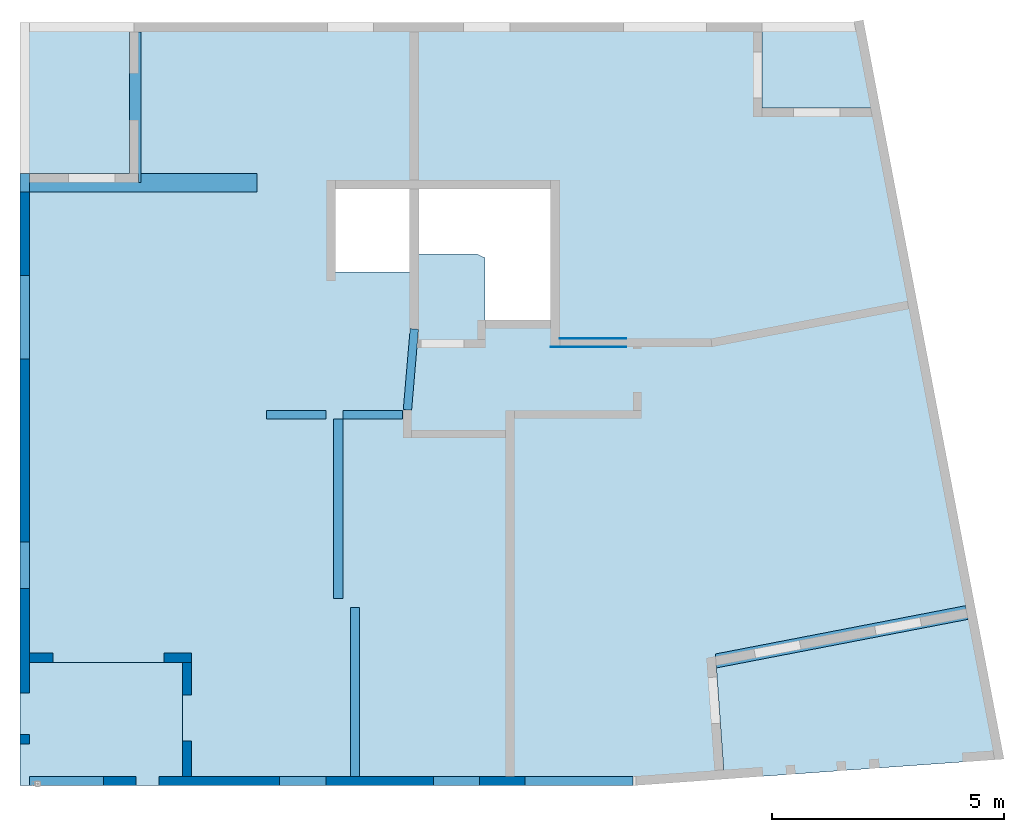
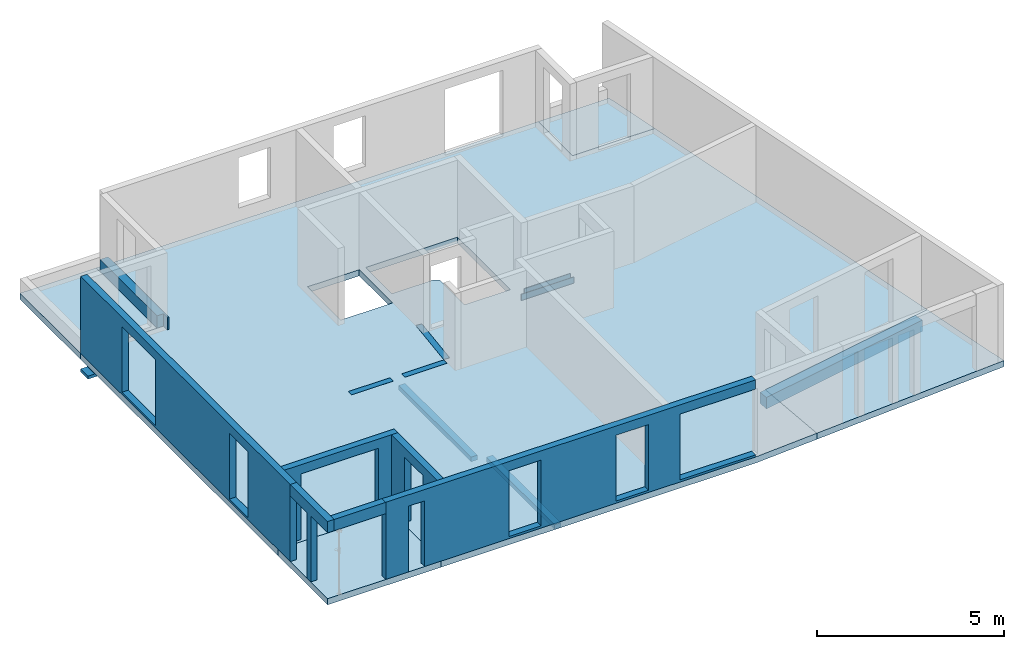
# One storey, part 1 of 3: 9 beams, 6 walls, 5 slabs, 17 openings.
"""IFC2X3 building model written with IfcOpenShell, lengths in centimetres."""

from ifc_helpers import new_model, entity, si_unit, converted_unit, derived_unit, direction, frame, frame_2d, origin, origin_2d_with_axis, place, context, subcontext, project, spatial, polyline, rectangle, outline, extrude, clip, halfspace, bounded_halfspace, face_set, faceted_brep, surface_model, source, transform, mapped, material, layer, layer_set, layer_usage, type_object, element, save


model = new_model("IFC2X3")

# Units and contexts
model_context = context("Model", 3, precision=0.001, world=origin(), true_north=direction((6.12303176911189e-17, 1.0)))
body_context = subcontext(model_context, "Body", "Model", "MODEL_VIEW")
ifc_project = project(units=[si_unit("LENGTHUNIT", "METRE", prefix="CENTI"), si_unit("AREAUNIT", "SQUARE_METRE"), si_unit("VOLUMEUNIT", "CUBIC_METRE"), converted_unit("PLANEANGLEUNIT", "DEGREE", entity("IfcRatioMeasure", 0.0174532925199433), si_unit("PLANEANGLEUNIT", "RADIAN"), dimensions=[0, 0, 0, 0, 0, 0, 0]), si_unit("MASSUNIT", "GRAM", prefix="KILO"), si_unit("TIMEUNIT", "SECOND"), si_unit("FREQUENCYUNIT", "HERTZ"), si_unit("THERMODYNAMICTEMPERATUREUNIT", "DEGREE_CELSIUS"), derived_unit("THERMALTRANSMITTANCEUNIT", [(si_unit("MASSUNIT", "GRAM", prefix="KILO"), 1), (si_unit("THERMODYNAMICTEMPERATUREUNIT", "KELVIN"), -1), (si_unit("TIMEUNIT", "SECOND"), -3)]), derived_unit("VOLUMETRICFLOWRATEUNIT", [(si_unit("LENGTHUNIT", "METRE"), 3), (si_unit("TIMEUNIT", "SECOND"), -1)]), si_unit("ELECTRICCURRENTUNIT", "AMPERE"), si_unit("ELECTRICVOLTAGEUNIT", "VOLT"), si_unit("POWERUNIT", "WATT"), si_unit("FORCEUNIT", "NEWTON"), si_unit("ILLUMINANCEUNIT", "LUX"), si_unit("LUMINOUSFLUXUNIT", "LUMEN"), si_unit("LUMINOUSINTENSITYUNIT", "CANDELA"), derived_unit("USERDEFINED", [(si_unit("MASSUNIT", "GRAM", prefix="KILO"), -1), (si_unit("LENGTHUNIT", "METRE"), -2), (si_unit("TIMEUNIT", "SECOND"), 3), (si_unit("LUMINOUSFLUXUNIT", "LUMEN"), 1)]), derived_unit("LINEARVELOCITYUNIT", [(si_unit("LENGTHUNIT", "METRE"), 1), (si_unit("TIMEUNIT", "SECOND"), -1)]), si_unit("PRESSUREUNIT", "PASCAL"), derived_unit("USERDEFINED", [(si_unit("LENGTHUNIT", "METRE"), -2), (si_unit("MASSUNIT", "GRAM", prefix="KILO"), 1), (si_unit("TIMEUNIT", "SECOND"), -2)])], contexts=[model_context])

# Site, building, storey
site_placement = place(None, origin())
site = spatial("IfcSite", under=ifc_project, at=site_placement, Name="Default", CompositionType="ELEMENT")
building_placement = place(site_placement, origin())
building = spatial("IfcBuilding", under=site, at=building_placement, CompositionType="ELEMENT")
storey_placement = place(building_placement, frame((0.0, 0.0, 272.0)))
storey = spatial("IfcBuildingStorey", under=building, at=storey_placement, Name="R+1", CompositionType="ELEMENT", Elevation=271.999999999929)

# Beams
ifc_material_1 = material(Name="Béton_C25/30")
shared_shape_1 = source(origin(), body_context, "Body", "SurfaceModel", [
    surface_model("IfcFaceBasedSurfaceModel", [(128.991004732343, 18.0, 20.0), (128.991004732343, 0.0, 20.0), (128.991004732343, 0.0, 0.0), (128.991004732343, 18.0, 0.0), (0.0, 18.0, 20.0), (0.0, 0.0, 20.0), (0.0, 0.0, 0.0), (0.0, 18.0, 0.0)], [face_set([[[0, 1, 2, 3]], [[4, 5, 6, 7]], [[1, 0, 4, 5]], [[2, 1, 5, 6]], [[3, 2, 6, 7]], [[0, 3, 7, 4]]])]),
])
beam_1_placement = place(storey_placement, frame((1573.3961455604, 23999.1933501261, -27.0)))
element("IfcBeam", 1, at=beam_1_placement, inside=storey, material=ifc_material_1, Name="BB_BANDE NOYEE:BB_BN_RECTANGULAIRE", ObjectType="BB_BN_RECTANGULAIRE", context=body_context, shape_type="MappedRepresentation", body=[
    mapped(shared_shape_1, transform((0.0, 0.0, 0.0), scale=1.0)),
])
shared_shape_2 = source(origin(), body_context, "Body", "Brep", [
    faceted_brep([(0.0, 0.0, 20.0), (0.0, 18.0, 20.0), (0.0, 18.0, 0.0), (0.0, 0.0, 0.0), (128.72999993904, 0.0, 20.0), (128.72999993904, 0.0, 0.0), (128.72999993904, 18.0, 0.0), (128.72999993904, 18.0, 20.0)], [[[0, 1, 2, 3]], [[4, 5, 6, 7]], [[1, 0, 4, 7]], [[2, 1, 7, 6]], [[3, 2, 6, 5]], [[0, 3, 5, 4]]]),
])
beam_2_placement = place(storey_placement, frame((1408.3961455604, 23999.1933501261, -27.0)))
element("IfcBeam", 2, at=beam_2_placement, inside=storey, material=ifc_material_1, Name="BB_BANDE NOYEE:BB_BN_RECTANGULAIRE", ObjectType="BB_BN_RECTANGULAIRE", context=body_context, shape_type="MappedRepresentation", body=[
    mapped(shared_shape_2, transform((0.0, 0.0, 0.0), scale=1.0)),
])
shared_shape_3 = source(origin(), body_context, "Body", "SurfaceModel", [
    surface_model("IfcFaceBasedSurfaceModel", [(18.1074808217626, 2.02519195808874, 20.0), (18.1074808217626, 2.02519195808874, 0.0), (0.172197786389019, 3.55019111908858, 0.0), (0.172197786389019, 3.55019111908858, 20.0), (32.9626776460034, 176.734900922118, 20.0), (32.9626776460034, 176.734900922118, 0.0), (15.0273946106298, 178.259900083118, 0.0), (15.0273946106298, 178.259900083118, 20.0)], [face_set([[[0, 1, 2, 3]], [[4, 5, 6, 7]], [[3, 0, 4, 7]], [[2, 3, 7, 6]], [[1, 2, 6, 5]], [[0, 1, 5, 4]]])]),
])
beam_3_placement = place(storey_placement, frame((1703.68950877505, 24015.5430677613, -27.0)))
element("IfcBeam", 3, at=beam_3_placement, inside=storey, material=ifc_material_1, Name="BB_BANDE NOYEE:BB_BN_RECTANGULAIRE", ObjectType="BB_BN_RECTANGULAIRE", context=body_context, shape_type="MappedRepresentation", body=[
    mapped(shared_shape_3, transform((0.0, 0.0, 0.0), scale=1.0)),
])
shared_shape_4 = source(origin(), body_context, "Body", "SweptSolid", [
    extrude(rectangle(XDim=1.00000000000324, YDim=143.000249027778, at=frame_2d((0.0, -2.1316282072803e-13), x_axis=(1.0, 0.0))), frame((2113.29273334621, 24172.805840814, 265.0), z_axis=(0.0, 0.0, 1.0), x_axis=(0.0, -1.0, 0.0)), (0.0, 0.0, 1.0), 20.0),
    extrude(rectangle(XDim=0.999999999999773, YDim=163.000249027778, at=frame_2d((-1.7325862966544e-12, -2.20268248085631e-13), x_axis=(1.0, 0.0))), frame((2103.29273334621, 24153.805840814, 265.0), z_axis=(0.0, 0.0, 1.0), x_axis=(0.0, 1.0, 0.0)), (0.0, 0.0, 1.0), 20.0),
])
beam_4_placement = place(storey_placement, frame((0.0, 0.0, -272.0)))
element("IfcBeam", 4, at=beam_4_placement, inside=storey, material=ifc_material_1, Name="BB_BANDE NOYEE:20 x 20 ht", ObjectType="20 x 20 ht", context=body_context, shape_type="MappedRepresentation", body=[
    mapped(shared_shape_4, transform((0.0, 0.0, 0.0), scale=1.0)),
])
beam_5_placement = place(storey_placement, frame((1599.41025782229, 23601.6882457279, 0.0), z_axis=(0.0, 0.0, 1.0), x_axis=(0.0, -1.0, 0.0)))
element("IfcBeam", 5, at=beam_5_placement, inside=storey, material=ifc_material_1, Name="BB_POUTRE RECTANGULAIRE:20x35 ht", ObjectType="BB_POUTRE RECTANGULAIRE:20x35 ht", context=body_context, shape_type="SweptSolid", body=[
    extrude(rectangle(XDim=15.0000000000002, YDim=20.0000000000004, at=frame_2d((1.33226762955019e-14, 1.08357767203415e-13), x_axis=(1.0, 0.0))), frame((10.0, 0.0, -34.5000000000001), z_axis=(1.0, 0.0, 0.0), x_axis=(0.0, 0.0, -1.0)), (0.0, 0.0, 1.0), 364.386832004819),
])
beam_6_placement = place(storey_placement, frame((1563.41025782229, 23601.6882457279, 0.0), z_axis=(0.0, 0.0, 1.0), x_axis=(0.0, 1.0, 0.0)))
element("IfcBeam", 6, at=beam_6_placement, inside=storey, material=ifc_material_1, Name="BB_POUTRE RECTANGULAIRE:20x35 ht", ObjectType="BB_POUTRE RECTANGULAIRE:20x35 ht", context=body_context, shape_type="SweptSolid", body=[
    extrude(rectangle(XDim=15.0000000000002, YDim=20.0000000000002, at=frame_2d((1.33226762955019e-14, 0.0), x_axis=(1.0, 0.0))), frame((10.0, 0.0, -34.5000000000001), z_axis=(1.0, 0.0, 0.0), x_axis=(0.0, 0.0, -1.0)), (0.0, 0.0, 1.0), 387.505104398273),
])
beam_7_placement = place(storey_placement, frame((876.385889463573, 24489.301413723, -67.0)))
element("IfcBeam", 7, at=beam_7_placement, inside=storey, material=ifc_material_1, Name="MR_POUTRE RECTANGULAIRE:40x60_C25/30", ObjectType="MR_POUTRE RECTANGULAIRE:40x60_C25/30", context=body_context, shape_type="Brep", body=[
    faceted_brep([(20.0, 0.0, 40.0), (20.0, 0.0, 10.0), (0.0, 0.0, 10.0), (0.0, 0.0, 0.0), (511.405750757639, 0.0, 0.0), (511.405750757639, 0.0, 40.0), (511.405750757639, 40.0, 0.0), (0.0, 40.0, 0.0), (20.0, 40.0, 10.0), (20.0, 40.0, 40.0), (236.02536059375, 40.0, 40.0), (511.405750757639, 40.0, 40.0), (0.0, 40.0, 10.0)], [[[0, 1, 2, 3, 4, 5]], [[6, 4, 3, 7]], [[8, 9, 10, 11, 6, 7, 12]], [[1, 0, 9, 8]], [[2, 1, 8, 12]], [[5, 4, 6, 11]], [[0, 5, 11, 10, 9]], [[7, 3, 2, 12]]]),
])
beam_8_placement = place(storey_placement, frame((1112.41125005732, 24509.301413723, -7.0), z_axis=(0.0, 0.0, 1.0), x_axis=(0.0, 1.0, 0.0)))
element("IfcBeam", 8, at=beam_8_placement, inside=storey, material=ifc_material_1, Name="MR_POUTRE RECTANGULAIRE:25x60_C25/30", ObjectType="MR_POUTRE RECTANGULAIRE:25x60_C25/30", context=body_context, shape_type="Brep", body=[
    faceted_brep([(20.0, 0.0, 40.0), (20.0, -20.0, 40.0), (0.0, -20.0, 40.0), (0.0, -25.0, 40.0), (325.113246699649, -25.0, 40.0), (325.112966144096, 0.0, 40.0), (235.112966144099, 0.0, 40.0), (135.112966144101, 0.0, 40.0), (0.0, -25.0, 0.0), (325.113246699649, -25.0, 0.0), (20.0, 0.0, 0.0), (325.112966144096, 0.0, 0.0), (0.0, -20.0, 0.0), (20.0, -20.0, 0.0), (325.113078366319, -10.0, 0.0)], [[[0, 1, 2, 3, 4, 5, 6, 7]], [[3, 8, 9, 4]], [[10, 0, 7, 6, 5, 11]], [[8, 12, 13, 10, 11, 14, 9]], [[13, 1, 0, 10]], [[1, 13, 12, 2]], [[3, 2, 12, 8]], [[4, 9, 14, 11, 5]]]),
])
beam_9_placement = place(storey_placement, frame((2368.85068887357, 23474.4741096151, 0.0), z_axis=(0.0, 0.0, 1.0), x_axis=(0.981876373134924, 0.189522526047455, 0.0)))
element("IfcBeam", 9, at=beam_9_placement, inside=storey, material=ifc_material_1, Name="BB_POUTRE RECTANGULAIRE:30x60", ObjectType="BB_POUTRE RECTANGULAIRE:30x60", context=body_context, shape_type="Clipping", body=[
    clip(clip(extrude(rectangle(XDim=36.9999999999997, YDim=30.0000000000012, at=origin_2d_with_axis()), frame((8.27598216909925, 0.0, -48.5000000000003), z_axis=(1.0, 0.0, 0.0), x_axis=(0.0, 0.0, -1.0)), (0.0, 0.0, 1.0), 553.247129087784), halfspace(frame((33.4827229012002, 195.594923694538, -332.0), z_axis=(-0.992912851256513, 0.118844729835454, 0.0), x_axis=(0.118844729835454, 0.992912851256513, 0.0)), False)), halfspace(frame((563.148734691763, 666.909300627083, -332.0), z_axis=(0.999996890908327, -0.00249362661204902, 0.0), x_axis=(-0.00249362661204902, -0.999996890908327, 0.0)), False)),
])

# Slab, openings
ifc_layer_1 = layer(ifc_material_1, 20.0)
ifc_layer_set_1 = layer_set([ifc_layer_1], Name="Sol:DALLE_20_C25/30")
ifc_layer_usage_1 = layer_usage(ifc_layer_set_1, "AXIS3", "POSITIVE", 0.0)
slab_1_placement = place(storey_placement, frame((876.385889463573, 23207.301413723, -27.0)))
slab_1 = element("IfcSlab", 10, at=slab_1_placement, inside=storey, material=ifc_layer_usage_1, Name="Sol:DALLE_20_C25/30", ObjectType="Sol:DALLE_20_C25/30", PredefinedType="FLOOR", context=body_context, shape_type="SweptSolid", body=[
    extrude(outline(polyline([(1032.77428661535, -557.798237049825), (1032.77428661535, 498.443376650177), (796.748926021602, 498.443376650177), (796.748926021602, 823.556623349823), (-569.628100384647, 823.556623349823), (-569.628100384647, 639.608561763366), (-823.865136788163, 639.608561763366), (-1032.77428661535, -457.399013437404), (-470.298881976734, -564.514279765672), (-487.853581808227, -809.445702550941), (-290.971382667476, -823.556623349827), (682.36875127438, -823.556623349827), (682.36875127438, -557.798237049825), (1032.77428661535, -557.798237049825)])), frame((1032.77428661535, 823.556623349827, 20.0), z_axis=(0.0, 0.0, -1.0), x_axis=(-1.0, 0.0, 0.0)), (0.0, 0.0, 1.0), 20.0),
])
opening_1_placement = place(storey_placement, frame((876.385889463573, 23207.301413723, -27.0)))
element("IfcOpeningElement", 11, at=opening_1_placement, cuts=slab_1, ObjectType="Opening", context=body_context, shape_type="SweptSolid", body=[
    extrude(rectangle(XDim=178.833570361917, YDim=160.000244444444, at=frame_2d((271.36815391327, 374.864836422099), x_axis=(0.0, 1.0))), frame((1032.77428661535, 823.556623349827, 20.0), z_axis=(0.0, 0.0, -1.0), x_axis=(-1.0, 0.0, 0.0)), (0.0, 0.0, 1.0), 20.0),
])
opening_2_placement = place(storey_placement, frame((876.385889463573, 23207.301413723, -27.0)))
element("IfcOpeningElement", 12, at=opening_2_placement, cuts=slab_1, ObjectType="Opening", context=body_context, shape_type="SweptSolid", body=[
    extrude(outline(polyline([(171.368031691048, 323.671406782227), (171.368031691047, 464.281621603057), (-112.632432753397, 464.281621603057), (-112.632432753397, 181.44789235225), (29.2458251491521, 181.44789235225), (29.2458251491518, 316.064278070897), (45.5593653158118, 323.671406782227), (171.368031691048, 323.671406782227)])), frame((1032.77428661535, 823.556623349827, 20.0), z_axis=(0.0, 0.0, -1.0), x_axis=(-1.0, 0.0, 0.0)), (0.0, 0.0, 1.0), 20.0),
])

# Slabs
ifc_layer_usage_2 = layer_usage(ifc_layer_set_1, "AXIS3", "POSITIVE", 0.0)
slab_2_placement = place(storey_placement, origin())
element("IfcSlab", 13, at=slab_2_placement, inside=storey, material=ifc_layer_usage_2, Name="Sol:DALLE_20_C25/30", ObjectType="Sol:DALLE_20_C25/30", PredefinedType="FLOOR", context=body_context, shape_type="SweptSolid", body=[
    extrude(rectangle(XDim=325.113246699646, YDim=236.02536059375, at=frame_2d((1.73372427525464e-12, 0.0), x_axis=(1.0, 0.0))), frame((994.398569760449, 24691.8580370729, -7.0), z_axis=(0.0, 0.0, -1.0), x_axis=(0.0, 1.0, 0.0)), (0.0, 0.0, 1.0), 20.0),
])
ifc_layer_usage_3 = layer_usage(ifc_layer_set_1, "AXIS3", "POSITIVE", 0.0)
slab_3_placement = place(storey_placement, origin())
element("IfcSlab", 14, at=slab_3_placement, inside=storey, material=ifc_layer_usage_3, Name="Sol:DALLE_20_C25/30", ObjectType="Sol:DALLE_20_C25/30", PredefinedType="FLOOR", context=body_context, shape_type="SweptSolid", body=[
    extrude(outline(polyline([(-139.554317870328, -293.435771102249), (174.771550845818, -293.435771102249), (104.337084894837, 307.723466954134), (-139.554317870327, 279.148075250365), (-139.554317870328, -293.435771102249)])), frame((2679.7859457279, 23381.4743511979, -7.0), z_axis=(0.0, 0.0, -1.0), x_axis=(0.187073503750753, -0.982345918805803, 0.0)), (0.0, 0.0, 1.0), 20.0),
])
ifc_layer_usage_4 = layer_usage(ifc_layer_set_1, "AXIS3", "POSITIVE", 0.0)
slab_4_placement = place(storey_placement, origin())
element("IfcSlab", 15, at=slab_4_placement, inside=storey, material=ifc_layer_usage_4, Name="Sol:DALLE_20_C25/30", ObjectType="Sol:DALLE_20_C25/30", PredefinedType="FLOOR", context=body_context, shape_type="SweptSolid", body=[
    extrude(outline(polyline([(-91.9740307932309, -118.360959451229), (91.9740307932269, -118.360959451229), (91.9740307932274, 100.845841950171), (-91.9740307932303, 135.876076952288), (-91.9740307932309, -118.360959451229)])), frame((2597.1492359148, 24762.4406296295, -7.0), z_axis=(0.0, 0.0, -1.0), x_axis=(0.0, 1.0, 0.0)), (0.0, 0.0, 1.0), 20.0),
])
ifc_layer_usage_5 = layer_usage(ifc_layer_set_1, "AXIS3", "POSITIVE", 0.0)
slab_5_placement = place(storey_placement, origin())
element("IfcSlab", 16, at=slab_5_placement, inside=storey, material=ifc_layer_usage_5, Name="Sol:DALLE_20_C25/30", ObjectType="Sol:DALLE_20_C25/30", PredefinedType="FLOOR", context=body_context, shape_type="SweptSolid", body=[
    extrude(rectangle(XDim=265.758386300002, YDim=350.405535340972, at=frame_2d((-1.73372427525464e-12, 0.0), x_axis=(1.0, 0.0))), frame((1051.58865713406, 23340.180606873, -7.0), z_axis=(0.0, 0.0, -1.0), x_axis=(0.0, 1.0, 0.0)), (0.0, 0.0, 1.0), 20.0),
])

# Wall, openings
ifc_material_2 = material(Name="Maçonnerie - Béton")
ifc_layer_2 = layer(ifc_material_2, 20.0)
ifc_layer_set_2 = layer_set([ifc_layer_2], Name="Mur de base:BBM_20")
ifc_layer_usage_6 = layer_usage(ifc_layer_set_2, "AXIS2", "POSITIVE", -10.0)
wall_type_1 = type_object("IfcWallType", Name="Mur de base:BBM_20", PredefinedType="STANDARD", material=ifc_layer_set_2)
wall_1_placement = place(storey_placement, frame((886.385889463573, 24529.301413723, -7.0), z_axis=(0.0, 0.0, 1.0), x_axis=(0.0, -1.0, 0.0)))
wall_1 = element("IfcWallStandardCase", 17, at=wall_1_placement, inside=storey, type_object=wall_type_1, material=ifc_layer_usage_6, Name="Mur de base:BBM_20", ObjectType="Mur de base:BBM_20", context=body_context, shape_type="Clipping", body=[
    clip(clip(extrude(rectangle(XDim=1122.0, YDim=20.0, at=frame_2d((561.000000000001, 0.0), x_axis=(-1.0, 0.0))), origin(), (0.0, 0.0, 1.0), 252.000000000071), bounded_halfspace(frame((1056.24161370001, -10.0, 252.0), z_axis=(0.0, 0.0, -1.0), x_axis=(-1.0, 0.0, 0.0)), True, frame((1056.24161370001, -10.0, 252.0)), polyline([(0.0, 0.0), (65.7583862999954, 0.0), (65.7583862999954, 20.0), (0.0, 20.0), (0.0, 0.0)]))), bounded_halfspace(frame((0.0, -10.0, 252.0), z_axis=(0.0, 0.0, -1.0), x_axis=(1.0, 0.0, 0.0)), True, frame((0.0, -10.0, 252.0)), polyline([(0.0, 0.0), (1056.24161370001, 0.0), (1056.24161370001, 20.0), (1036.2416137, 20.0), (20.0, 20.0), (0.0, 20.0), (0.0, 0.0)]))),
])
opening_3_placement = place(wall_1_placement, origin())
element("IfcOpeningElement", 18, at=opening_3_placement, cuts=wall_1, Name="Mur de base:BBM_20", ObjectType="Opening", context=body_context, shape_type="SweptSolid", body=[
    extrude(rectangle(XDim=215.0, YDim=90.0000000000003, at=frame_2d((0.0, -2.8421709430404e-14), x_axis=(0.0, 1.0))), frame((1167.0, -162.4, 107.5), z_axis=(0.0, 1.0, 0.0), x_axis=(1.0, 0.0, 0.0)), (0.0, 0.0, 1.0), 304.8),
])
opening_4_placement = place(wall_1_placement, frame((24529.301413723, -886.385889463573, 7.0), z_axis=(0.0, 0.0, 1.0), x_axis=(0.0, 1.0, 0.0)))
element("IfcOpeningElement", 19, at=opening_4_placement, cuts=wall_1, Name="Mur de base:BBM_20", ObjectType="Opening", context=body_context, shape_type="SweptSolid", body=[
    extrude(rectangle(XDim=215.0, YDim=180.000000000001, at=frame_2d((2.8421709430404e-14, 0.0), x_axis=(1.0, 0.0))), frame((743.985889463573, 24218.421056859, 107.5), z_axis=(1.0, 0.0, 0.0), x_axis=(0.0, 0.0, -1.0)), (0.0, 0.0, 1.0), 304.8),
])
opening_5_placement = place(wall_1_placement, frame((24529.301413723, -886.385889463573, 7.0), z_axis=(0.0, 0.0, 1.0), x_axis=(0.0, 1.0, 0.0)))
element("IfcOpeningElement", 20, at=opening_5_placement, cuts=wall_1, Name="Mur de base:BBM_20", ObjectType="Opening", context=body_context, shape_type="SweptSolid", body=[
    extrude(rectangle(XDim=215.0, YDim=99.9999999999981, at=frame_2d((1.73372427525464e-12, 2.8421709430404e-14), x_axis=(0.0, 1.0))), frame((723.985889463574, 23683.059800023, 107.5), z_axis=(1.0, 0.0, 0.0), x_axis=(0.0, -1.0, 0.0)), (0.0, 0.0, 1.0), 304.8),
])

ifc_layer_usage_7 = layer_usage(ifc_layer_set_2, "AXIS2", "POSITIVE", -10.0)
wall_2_placement = place(storey_placement, frame((2200.1315587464, 23217.301413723, -7.0), z_axis=(0.0, 0.0, 1.0), x_axis=(-1.0, 0.0, 0.0)))
wall_2 = element("IfcWallStandardCase", 21, at=wall_2_placement, inside=storey, type_object=wall_type_1, material=ifc_layer_usage_7, Name="Mur de base:BBM_20", ObjectType="Mur de base:BBM_20", context=body_context, shape_type="Clipping", body=[
    clip(clip(extrude(outline(polyline([(0.0, 10.0), (0.715800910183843, -10.0), (1143.74566928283, -10.0), (1143.74566928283, 10.0), (0.0, 10.0)])), origin(), (0.0, 0.0, 1.0), 252.000000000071), bounded_halfspace(frame((1143.74566928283, -10.0, 252.0), z_axis=(0.0, 0.0, -1.0), x_axis=(0.0, -1.0, 0.0)), True, frame((1143.74566928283, -10.0, 252.0)), polyline([(0.0, 0.0), (0.0, 20.0), (-170.405535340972, 20.0), (-170.405535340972, 0.0), (0.0, 0.0)]))), bounded_halfspace(frame((973.340133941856, 10.0, 252.0), z_axis=(0.0, 0.0, -1.0), x_axis=(0.0, 1.0, 0.0)), True, frame((973.340133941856, 10.0, 252.0)), polyline([(0.0, 0.0), (-973.340133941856, 0.0), (-972.624333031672, -20.0), (-717.356097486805, -20.0), (-697.356097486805, -20.0), (-20.0, -20.0), (0.0, -20.0), (0.0, 0.0)]))),
])
opening_6_placement = place(wall_2_placement, origin())
element("IfcOpeningElement", 22, at=opening_6_placement, cuts=wall_2, Name="Mur de base:BBM_20", ObjectType="Opening", context=body_context, shape_type="SweptSolid", body=[
    extrude(rectangle(XDim=215.0, YDim=180.0, at=frame_2d((0.0, -2.8421709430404e-14), x_axis=(0.0, 1.0))), frame((1233.74566928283, -162.400000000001, 107.5), z_axis=(0.0, 1.0, 0.0), x_axis=(1.0, 0.0, 0.0)), (0.0, 0.0, 1.0), 304.8),
])
opening_7_placement = place(wall_2_placement, frame((2200.1315587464, 23217.301413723, 7.0), z_axis=(0.0, 0.0, 1.0), x_axis=(-1.0, 0.0, 0.0)))
element("IfcOpeningElement", 23, at=opening_7_placement, cuts=wall_2, Name="Mur de base:BBM_20", ObjectType="Opening", context=body_context, shape_type="SweptSolid", body=[
    extrude(rectangle(XDim=215.0, YDim=240.0, at=frame_2d((2.8421709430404e-14, 0.0), x_axis=(1.0, 0.0))), frame((2086.14752229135, 23359.701413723, 107.5), z_axis=(0.0, -1.0, 0.0), x_axis=(0.0, 0.0, -1.0)), (0.0, 0.0, 1.0), 304.8),
])
opening_8_placement = place(wall_2_placement, frame((2200.1315587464, 23217.301413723, 7.0), z_axis=(0.0, 0.0, 1.0), x_axis=(-1.0, 0.0, 0.0)))
element("IfcOpeningElement", 24, at=opening_8_placement, cuts=wall_2, Name="Mur de base:BBM_20", ObjectType="Opening", context=body_context, shape_type="SweptSolid", body=[
    extrude(rectangle(XDim=215.0, YDim=50.0000000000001, at=frame_2d((-2.8421709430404e-14, 1.08357767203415e-13), x_axis=(1.0, 0.0))), frame((1151.38588946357, 23359.701413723, 100.5), z_axis=(0.0, -1.0, 0.0), x_axis=(0.0, 0.0, -1.0)), (0.0, 0.0, 1.0), 304.8),
])
opening_9_placement = place(wall_2_placement, frame((2200.1315587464, 23217.301413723, 7.0), z_axis=(0.0, 0.0, 1.0), x_axis=(-1.0, 0.0, 0.0)))
element("IfcOpeningElement", 25, at=opening_9_placement, cuts=wall_2, Name="Mur de base:BBM_20", ObjectType="Opening", context=body_context, shape_type="SweptSolid", body=[
    extrude(rectangle(XDim=215.0, YDim=100.0, at=frame_2d((2.8421709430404e-14, -1.06581410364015e-13), x_axis=(1.0, 0.0))), frame((1486.79142480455, 23359.701413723, 107.5), z_axis=(0.0, -1.0, 0.0), x_axis=(0.0, 0.0, -1.0)), (0.0, 0.0, 1.0), 304.8),
])
opening_10_placement = place(wall_2_placement, frame((2200.1315587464, 23217.301413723, 7.0), z_axis=(0.0, 0.0, 1.0), x_axis=(-1.0, 0.0, 0.0)))
element("IfcOpeningElement", 26, at=opening_10_placement, cuts=wall_2, Name="Mur de base:BBM_20", ObjectType="Opening", context=body_context, shape_type="SweptSolid", body=[
    extrude(rectangle(XDim=215.0, YDim=100.0, at=frame_2d((2.8421709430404e-14, -1.10134124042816e-13), x_axis=(1.0, 0.0))), frame((1818.79142480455, 23359.701413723, 107.5), z_axis=(0.0, -1.0, 0.0), x_axis=(0.0, 0.0, -1.0)), (0.0, 0.0, 1.0), 304.8),
])

# Wall, opening
ifc_layer_usage_8 = layer_usage(ifc_layer_set_2, "AXIS2", "POSITIVE", -10.0)
wall_3_placement = place(storey_placement, frame((1236.79142480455, 23227.301413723, 0.0), z_axis=(0.0, 0.0, 1.0), x_axis=(0.0, 1.0, 0.0)))
wall_3 = element("IfcWallStandardCase", 27, at=wall_3_placement, inside=storey, type_object=wall_type_1, material=ifc_layer_usage_8, Name="Mur de base:BBM_20", ObjectType="Mur de base:BBM_20", context=body_context, shape_type="Clipping", body=[
    clip(extrude(rectangle(XDim=245.758386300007, YDim=20.0000000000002, at=frame_2d((122.879193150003, 0.0), x_axis=(-1.0, 0.0))), origin(), (0.0, 0.0, 1.0), 245.000000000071), bounded_halfspace(frame((0.0, -10.0, 245.0), z_axis=(0.0, 0.0, -1.0), x_axis=(-1.0, 0.0, 0.0)), True, frame((0.0, -10.0, 245.0)), polyline([(0.0, 0.0), (245.758386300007, 0.0), (245.758386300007, 20.0), (0.0, 20.0), (0.0, 0.0)]))),
])
opening_11_placement = place(wall_3_placement, frame((-23227.301413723, 1236.79142480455, 0.0), z_axis=(0.0, 0.0, 1.0), x_axis=(0.0, -1.0, 0.0)))
element("IfcOpeningElement", 28, at=opening_11_placement, cuts=wall_3, Name="Mur de base:BBM_20", ObjectType="Opening", context=body_context, shape_type="SweptSolid", body=[
    extrude(rectangle(XDim=215.0, YDim=100.000000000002, at=frame_2d((2.1316282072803e-14, 1.73372427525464e-12), x_axis=(1.0, 0.0))), frame((1379.19142480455, 23353.059800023, 107.5), z_axis=(-1.0, 0.0, 0.0), x_axis=(0.0, 0.0, -1.0)), (0.0, 0.0, 1.0), 304.8),
])

ifc_layer_usage_9 = layer_usage(ifc_layer_set_2, "AXIS2", "POSITIVE", -10.0)
wall_4_placement = place(storey_placement, frame((896.385889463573, 23483.059800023, 0.0)))
wall_4 = element("IfcWallStandardCase", 29, at=wall_4_placement, inside=storey, type_object=wall_type_1, material=ifc_layer_usage_9, Name="Mur de base:BBM_20", ObjectType="Mur de base:BBM_20", context=body_context, shape_type="Clipping", body=[
    clip(extrude(rectangle(XDim=350.405535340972, YDim=20.0000000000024, at=frame_2d((175.202767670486, 0.0), x_axis=(-1.0, 0.0))), origin(), (0.0, 0.0, 1.0), 245.000000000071), bounded_halfspace(frame((0.0, -10.0, 245.0), z_axis=(0.0, 0.0, -1.0), x_axis=(0.0, -1.0, 0.0)), True, frame((0.0, -10.0, 245.0)), polyline([(0.0, 0.0), (330.405535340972, 0.0), (350.405535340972, 0.0), (350.405535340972, 20.0), (0.0, 20.0), (0.0, 0.0)]))),
])
opening_12_placement = place(wall_4_placement, frame((-896.385889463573, -23483.059800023, 0.0)))
element("IfcOpeningElement", 30, at=opening_12_placement, cuts=wall_4, Name="Mur de base:BBM_20", ObjectType="Opening", context=body_context, shape_type="SweptSolid", body=[
    extrude(rectangle(XDim=215.0, YDim=240.0, at=frame_2d((0.0, 2.8421709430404e-14), x_axis=(0.0, 1.0))), frame((1067.38588946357, 23320.659800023, 107.5), z_axis=(0.0, 1.0, 0.0), x_axis=(1.0, 0.0, 0.0)), (0.0, 0.0, 1.0), 304.8),
])

# Wall, openings
ifc_layer_3 = layer(ifc_material_1, 20.0)
ifc_layer_set_3 = layer_set([ifc_layer_3], Name="Mur de base:VOILE_20_C25/30")
ifc_layer_usage_10 = layer_usage(ifc_layer_set_3, "AXIS2", "NEGATIVE", 10.0)
wall_type_2 = type_object("IfcWallType", Name="Mur de base:VOILE_20_C25/30", PredefinedType="STANDARD", material=ifc_layer_set_3)
wall_5_placement = place(storey_placement, frame((886.385889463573, 23407.301413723, -7.0), z_axis=(0.0, 0.0, 1.0), x_axis=(0.0, -1.0, 0.0)))
wall_5 = element("IfcWallStandardCase", 31, at=wall_5_placement, inside=storey, type_object=wall_type_2, material=ifc_layer_usage_10, Name="Mur de base:VOILE_20_C25/30", ObjectType="Mur de base:VOILE_20_C25/30", context=body_context, shape_type="Clipping", body=[
    clip(extrude(rectangle(XDim=200.0, YDim=20.0, at=frame_2d((99.9999999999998, 7.105427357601e-15), x_axis=(-1.0, 0.0))), origin(), (0.0, 0.0, 1.0), 252.000000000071), bounded_halfspace(frame((0.0, -10.0, 252.0), z_axis=(0.0, 0.0, -1.0), x_axis=(-1.0, 0.0, 0.0)), True, frame((0.0, -10.0, 252.0)), polyline([(0.0, 0.0), (200.0, 0.0), (200.0, 20.0), (180.0, 20.0), (0.0, 20.0), (0.0, 0.0)]))),
])
opening_13_placement = place(wall_5_placement, origin())
element("IfcOpeningElement", 32, at=opening_13_placement, cuts=wall_5, Name="Mur de base:VOILE_20_C25/30", ObjectType="Opening", context=body_context, shape_type="SweptSolid", body=[
    extrude(rectangle(XDim=215.0, YDim=19.9999999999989, at=frame_2d((-1.73283609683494e-12, -2.8421709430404e-14), x_axis=(0.0, 1.0))), frame((190.0, -10.0, 107.5), z_axis=(0.0, 1.0, 0.0), x_axis=(1.0, 0.0, 0.0)), (0.0, 0.0, 1.0), 180.0),
])
opening_14_placement = place(wall_5_placement, frame((23407.301413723, -886.385889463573, 7.0), z_axis=(0.0, 0.0, 1.0), x_axis=(0.0, 1.0, 0.0)))
element("IfcOpeningElement", 33, at=opening_14_placement, cuts=wall_5, Name="Mur de base:VOILE_20_C25/30", ObjectType="Opening", context=body_context, shape_type="SweptSolid", body=[
    extrude(rectangle(XDim=215.0, YDim=90.0000000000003, at=frame_2d((0.0, -2.8421709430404e-14), x_axis=(0.0, 1.0))), frame((723.985889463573, 23252.301413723, 100.5), z_axis=(1.0, 0.0, 0.0), x_axis=(0.0, -1.0, 0.0)), (0.0, 0.0, 1.0), 304.8),
])
opening_15_placement = place(wall_5_placement, frame((23407.301413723, -886.385889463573, 7.0), z_axis=(0.0, 0.0, 1.0), x_axis=(0.0, 1.0, 0.0)))
element("IfcOpeningElement", 34, at=opening_15_placement, cuts=wall_5, Name="Mur de base:VOILE_20_C25/30", ObjectType="Opening", context=body_context, shape_type="SweptSolid", body=[
    extrude(rectangle(XDim=215.0, YDim=90.0000000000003, at=frame_2d((0.0, -2.8421709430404e-14), x_axis=(0.0, 1.0))), frame((723.985889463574, 23362.301413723, 100.5), z_axis=(1.0, 0.0, 0.0), x_axis=(0.0, -1.0, 0.0)), (0.0, 0.0, 1.0), 304.8),
])

ifc_layer_usage_11 = layer_usage(ifc_layer_set_3, "AXIS2", "NEGATIVE", 10.0)
wall_6_placement = place(storey_placement, frame((896.385889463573, 23217.301413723, 208.0)))
wall_6 = element("IfcWallStandardCase", 35, at=wall_6_placement, inside=storey, type_object=wall_type_2, material=ifc_layer_usage_11, Name="Mur de base:VOILE_20_C25/30", ObjectType="Mur de base:VOILE_20_C25/30", context=body_context, shape_type="Clipping", body=[
    clip(extrude(rectangle(XDim=160.0, YDim=20.0000000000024, at=frame_2d((80.0000000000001, 0.0), x_axis=(-1.0, 0.0))), origin(), (0.0, 0.0, 1.0), 37.0000000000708), bounded_halfspace(frame((0.0, -10.0, 37.0), z_axis=(0.0, 0.0, -1.0), x_axis=(0.0, 1.0, 0.0)), True, frame((0.0, -10.0, 37.0)), polyline([(0.0, 0.0), (160.0, 0.0), (160.0, 20.0), (0.0, 20.0), (0.0, 0.0)]))),
])
opening_16_placement = place(wall_6_placement, origin())
element("IfcOpeningElement", 36, at=opening_16_placement, cuts=wall_6, Name="Mur de base:VOILE_20_C25/30", ObjectType="Opening", context=body_context, shape_type="SweptSolid", body=[
    extrude(rectangle(XDim=215.0, YDim=20.0, at=frame_2d((0.0, -2.8421709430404e-14), x_axis=(0.0, 1.0))), frame((-10.0, -10.0, -107.5), z_axis=(0.0, 1.0, 0.0), x_axis=(1.0, 0.0, 0.0)), (0.0, 0.0, 1.0), 90.0000000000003),
])
opening_17_placement = place(wall_6_placement, frame((-896.385889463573, -23217.301413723, -208.0)))
element("IfcOpeningElement", 37, at=opening_17_placement, cuts=wall_6, Name="Mur de base:VOILE_20_C25/30", ObjectType="Opening", context=body_context, shape_type="SweptSolid", body=[
    extrude(rectangle(XDim=215.0, YDim=180.0, at=frame_2d((-2.8421709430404e-14, 1.06581410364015e-13), x_axis=(1.0, 0.0))), frame((966.385889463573, 23074.901413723, 100.5), z_axis=(0.0, 1.0, 0.0), x_axis=(0.0, 0.0, -1.0)), (0.0, 0.0, 1.0), 304.8),
])

save(model, "model.ifc")
